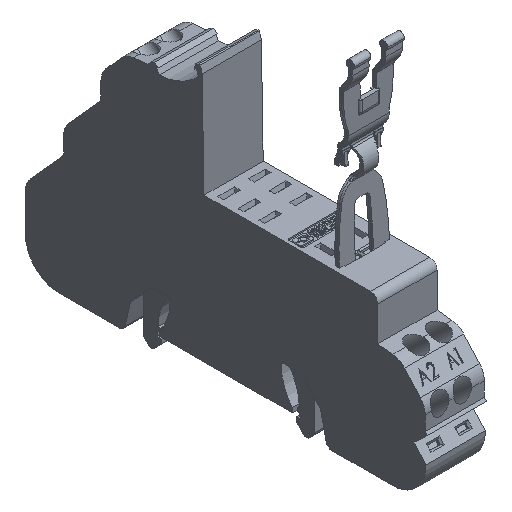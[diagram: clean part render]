
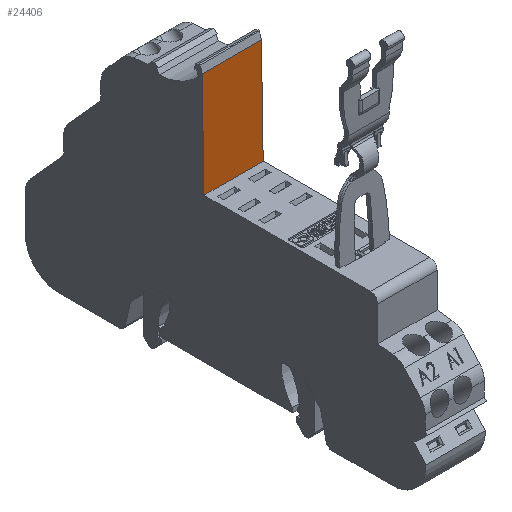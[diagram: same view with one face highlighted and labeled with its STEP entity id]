
A CAD part, isometric view. The second image highlights one B-rep face of the part: STEP entity #24406.
In plain terms, the highlighted planar face has unit normal (0, -1, 0.018).
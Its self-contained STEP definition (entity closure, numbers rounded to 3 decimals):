
#513 = VERTEX_POINT ( 'NONE', #11514 ) ;
#4977 = VERTEX_POINT ( 'NONE', #8467 ) ;
#6535 = DIRECTION ( 'NONE',  ( 0., -0.017, -1. ) ) ;
#8036 = LINE ( 'NONE', #16420, #35491 ) ;
#8467 = CARTESIAN_POINT ( 'NONE',  ( 0., 54.774, 64.66 ) ) ;
#10676 = DIRECTION ( 'NONE',  ( -1., 0., 0. ) ) ;
#11514 = CARTESIAN_POINT ( 'NONE',  ( 0., 54.331, 39.313 ) ) ;
#13493 = VECTOR ( 'NONE', #6535, 1000. ) ;
#16420 = CARTESIAN_POINT ( 'NONE',  ( 14.4, 54.331, 39.313 ) ) ;
#16935 = EDGE_CURVE ( 'NONE', #24897, #4977, #17207, .T. ) ;
#17207 = LINE ( 'NONE', #19887, #22951 ) ;
#17397 = DIRECTION ( 'NONE',  ( -1., 0., 0. ) ) ;
#18891 = ORIENTED_EDGE ( 'NONE', *, *, #16935, .T. ) ;
#19208 = CARTESIAN_POINT ( 'NONE',  ( 14.4, 54.331, 39.313 ) ) ;
#19887 = CARTESIAN_POINT ( 'NONE',  ( 14.4, 54.774, 64.66 ) ) ;
#22951 = VECTOR ( 'NONE', #17397, 1000. ) ;
#23164 = ORIENTED_EDGE ( 'NONE', *, *, #29263, .F. ) ;
#23547 = EDGE_CURVE ( 'NONE', #4977, #513, #38252, .T. ) ;
#23602 = AXIS2_PLACEMENT_3D ( 'NONE', #30844, #31419, #36996 ) ;
#24406 = ADVANCED_FACE ( 'NONE', ( #34336 ), #24662, .F. ) ;
#24662 = PLANE ( 'NONE',  #23602 ) ;
#24897 = VERTEX_POINT ( 'NONE', #25619 ) ;
#25619 = CARTESIAN_POINT ( 'NONE',  ( 14.4, 54.774, 64.66 ) ) ;
#26917 = EDGE_LOOP ( 'NONE', ( #29840, #31719, #23164, #18891 ) ) ;
#29263 = EDGE_CURVE ( 'NONE', #24897, #38555, #34649, .T. ) ;
#29840 = ORIENTED_EDGE ( 'NONE', *, *, #23547, .T. ) ;
#30844 = CARTESIAN_POINT ( 'NONE',  ( 14.4, 54.331, 39.313 ) ) ;
#31419 = DIRECTION ( 'NONE',  ( 0., 1., -0.017 ) ) ;
#31719 = ORIENTED_EDGE ( 'NONE', *, *, #33506, .F. ) ;
#32284 = DIRECTION ( 'NONE',  ( 0., -0.017, -1. ) ) ;
#33506 = EDGE_CURVE ( 'NONE', #38555, #513, #8036, .T. ) ;
#34336 = FACE_OUTER_BOUND ( 'NONE', #26917, .T. ) ;
#34649 = LINE ( 'NONE', #19208, #13493 ) ;
#34974 = CARTESIAN_POINT ( 'NONE',  ( 0., 54.331, 39.313 ) ) ;
#35491 = VECTOR ( 'NONE', #10676, 1000. ) ;
#36996 = DIRECTION ( 'NONE',  ( 0., 0.017, 1. ) ) ;
#38252 = LINE ( 'NONE', #34974, #38570 ) ;
#38555 = VERTEX_POINT ( 'NONE', #39673 ) ;
#38570 = VECTOR ( 'NONE', #32284, 1000. ) ;
#39673 = CARTESIAN_POINT ( 'NONE',  ( 14.4, 54.331, 39.313 ) ) ;
